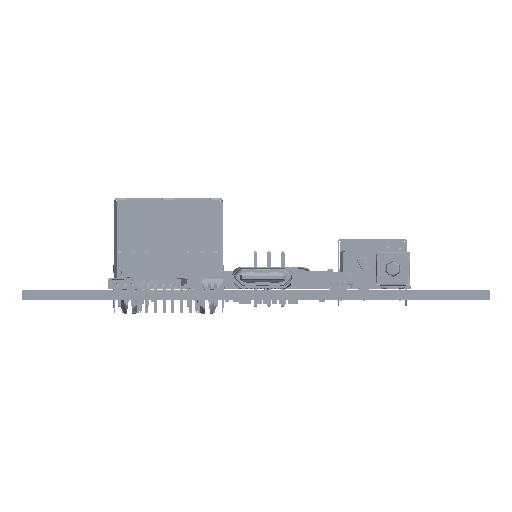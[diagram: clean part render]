
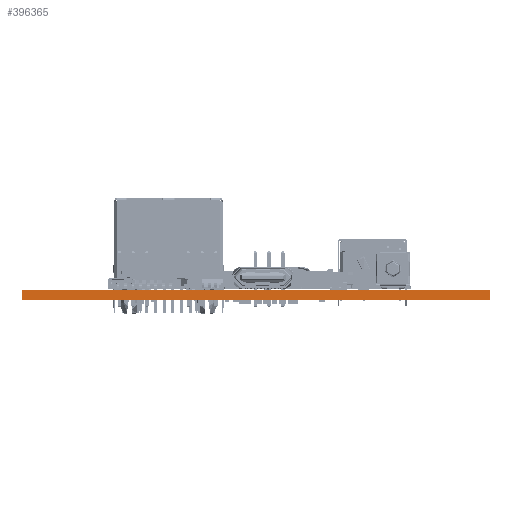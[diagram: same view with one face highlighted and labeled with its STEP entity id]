
A CAD part, left-side view. The second image highlights one B-rep face of the part: STEP entity #396365.
In plain terms, the highlighted planar face has unit normal (-1, 0, 0).
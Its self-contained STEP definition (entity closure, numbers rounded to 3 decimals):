
#396309 = VERTEX_POINT('',#396310);
#396310 = CARTESIAN_POINT('',(-65.65,-34.1,1.51));
#396316 = EDGE_CURVE('',#396317,#396309,#396319,.T.);
#396317 = VERTEX_POINT('',#396318);
#396318 = CARTESIAN_POINT('',(-65.65,-34.1,0.));
#396319 = LINE('',#396320,#396321);
#396320 = CARTESIAN_POINT('',(-65.65,-34.1,0.));
#396321 = VECTOR('',#396322,1.);
#396322 = DIRECTION('',(0.,0.,1.));
#396365 = ADVANCED_FACE('',(#396366),#396391,.T.);
#396366 = FACE_BOUND('',#396367,.T.);
#396367 = EDGE_LOOP('',(#396368,#396369,#396377,#396385));
#396368 = ORIENTED_EDGE('',*,*,#396316,.T.);
#396369 = ORIENTED_EDGE('',*,*,#396370,.T.);
#396370 = EDGE_CURVE('',#396309,#396371,#396373,.T.);
#396371 = VERTEX_POINT('',#396372);
#396372 = CARTESIAN_POINT('',(-65.65,34.1,1.51));
#396373 = LINE('',#396374,#396375);
#396374 = CARTESIAN_POINT('',(-65.65,-34.1,1.51));
#396375 = VECTOR('',#396376,1.);
#396376 = DIRECTION('',(0.,1.,0.));
#396377 = ORIENTED_EDGE('',*,*,#396378,.F.);
#396378 = EDGE_CURVE('',#396379,#396371,#396381,.T.);
#396379 = VERTEX_POINT('',#396380);
#396380 = CARTESIAN_POINT('',(-65.65,34.1,0.));
#396381 = LINE('',#396382,#396383);
#396382 = CARTESIAN_POINT('',(-65.65,34.1,0.));
#396383 = VECTOR('',#396384,1.);
#396384 = DIRECTION('',(0.,0.,1.));
#396385 = ORIENTED_EDGE('',*,*,#396386,.F.);
#396386 = EDGE_CURVE('',#396317,#396379,#396387,.T.);
#396387 = LINE('',#396388,#396389);
#396388 = CARTESIAN_POINT('',(-65.65,-34.1,0.));
#396389 = VECTOR('',#396390,1.);
#396390 = DIRECTION('',(0.,1.,0.));
#396391 = PLANE('',#396392);
#396392 = AXIS2_PLACEMENT_3D('',#396393,#396394,#396395);
#396393 = CARTESIAN_POINT('',(-65.65,-34.1,0.));
#396394 = DIRECTION('',(-1.,0.,0.));
#396395 = DIRECTION('',(0.,1.,0.));
